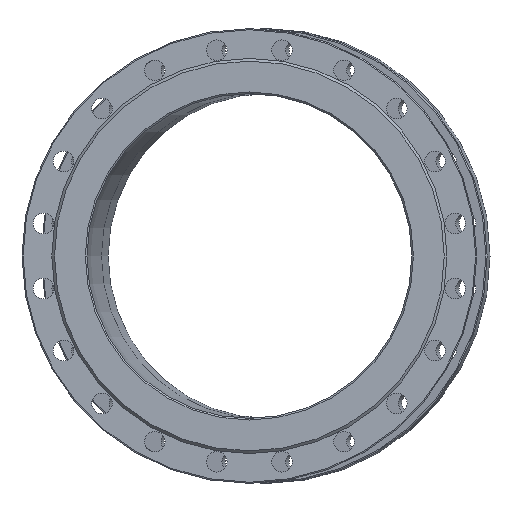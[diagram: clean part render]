
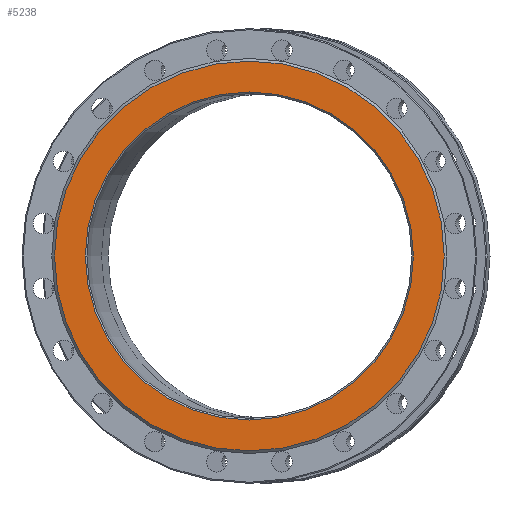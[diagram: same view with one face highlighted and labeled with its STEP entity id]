
A CAD part, left-side view. The second image highlights one B-rep face of the part: STEP entity #5238.
In plain terms, the highlighted planar face has unit normal (-1, 0, 0).
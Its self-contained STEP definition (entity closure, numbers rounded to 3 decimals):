
#345 = DIRECTION ( 'NONE',  ( 0., 1., 0. ) ) ;
#457 = AXIS2_PLACEMENT_3D ( 'NONE', #711, #1989, #345 ) ;
#674 = CARTESIAN_POINT ( 'NONE',  ( -174., 360., 0. ) ) ;
#711 = CARTESIAN_POINT ( 'NONE',  ( -174., 0., 0. ) ) ;
#759 = DIRECTION ( 'NONE',  ( 1., 0., 0. ) ) ;
#783 = FACE_BOUND ( 'NONE', #1376, .T. ) ;
#840 = CARTESIAN_POINT ( 'NONE',  ( -174., 0., 0. ) ) ;
#968 = VERTEX_POINT ( 'NONE', #1724 ) ;
#1005 = EDGE_CURVE ( 'NONE', #1928, #1928, #4273, .T. ) ;
#1376 = EDGE_LOOP ( 'NONE', ( #4004 ) ) ;
#1642 = DIRECTION ( 'NONE',  ( 1., 0., 0. ) ) ;
#1724 = CARTESIAN_POINT ( 'NONE',  ( -174., 303., 0. ) ) ;
#1928 = VERTEX_POINT ( 'NONE', #674 ) ;
#1981 = DIRECTION ( 'NONE',  ( 0., 1., 0. ) ) ;
#1989 = DIRECTION ( 'NONE',  ( 1., 0., 0. ) ) ;
#2014 = FACE_OUTER_BOUND ( 'NONE', #2668, .T. ) ;
#2433 = CARTESIAN_POINT ( 'NONE',  ( -174., 0., 0. ) ) ;
#2492 = DIRECTION ( 'NONE',  ( 0., 1., 0. ) ) ;
#2668 = EDGE_LOOP ( 'NONE', ( #4351 ) ) ;
#3184 = CIRCLE ( 'NONE', #5469, 303. ) ;
#3723 = AXIS2_PLACEMENT_3D ( 'NONE', #840, #759, #2492 ) ;
#3944 = EDGE_CURVE ( 'NONE', #968, #968, #3184, .T. ) ;
#4004 = ORIENTED_EDGE ( 'NONE', *, *, #3944, .T. ) ;
#4273 = CIRCLE ( 'NONE', #457, 360. ) ;
#4351 = ORIENTED_EDGE ( 'NONE', *, *, #1005, .F. ) ;
#4564 = PLANE ( 'NONE',  #3723 ) ;
#5238 = ADVANCED_FACE ( 'NONE', ( #783, #2014 ), #4564, .F. ) ;
#5469 = AXIS2_PLACEMENT_3D ( 'NONE', #2433, #1642, #1981 ) ;
